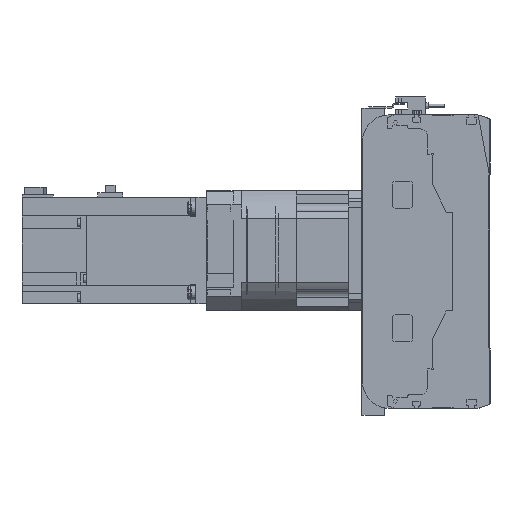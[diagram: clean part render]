
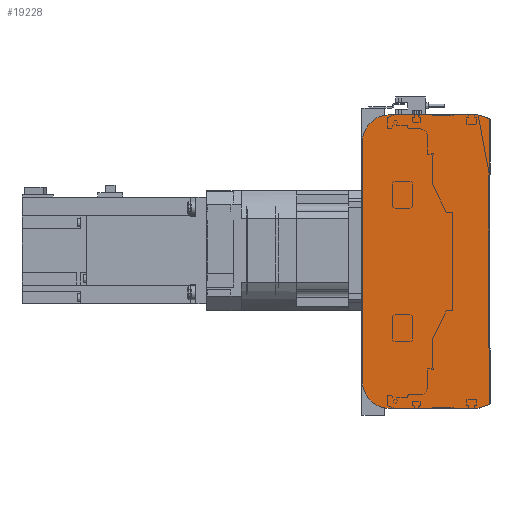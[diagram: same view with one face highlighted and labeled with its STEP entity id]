
A CAD part, left-side view. The second image highlights one B-rep face of the part: STEP entity #19228.
In plain terms, the highlighted planar face has unit normal (-1, 0, 0).
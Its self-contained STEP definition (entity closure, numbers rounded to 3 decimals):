
#1102=CIRCLE('',#20948,20.);
#1103=CIRCLE('',#20951,20.);
#4750=ORIENTED_EDGE('',*,*,#8328,.F.);
#4751=ORIENTED_EDGE('',*,*,#8370,.F.);
#4752=ORIENTED_EDGE('',*,*,#8368,.F.);
#4753=ORIENTED_EDGE('',*,*,#8366,.F.);
#4754=ORIENTED_EDGE('',*,*,#8355,.F.);
#4755=ORIENTED_EDGE('',*,*,#8346,.F.);
#4756=ORIENTED_EDGE('',*,*,#8342,.F.);
#4757=ORIENTED_EDGE('',*,*,#8339,.F.);
#8328=EDGE_CURVE('',#10461,#10462,#12187,.T.);
#8339=EDGE_CURVE('',#10462,#10469,#12198,.T.);
#8342=EDGE_CURVE('',#10469,#10471,#12201,.T.);
#8346=EDGE_CURVE('',#10471,#10472,#12205,.T.);
#8355=EDGE_CURVE('',#10472,#10478,#12214,.T.);
#8366=EDGE_CURVE('',#10478,#10485,#1102,.T.);
#8368=EDGE_CURVE('',#10485,#10486,#12226,.T.);
#8370=EDGE_CURVE('',#10486,#10461,#1103,.T.);
#10461=VERTEX_POINT('',#31854);
#10462=VERTEX_POINT('',#31856);
#10469=VERTEX_POINT('',#31875);
#10471=VERTEX_POINT('',#31881);
#10472=VERTEX_POINT('',#31887);
#10478=VERTEX_POINT('',#31903);
#10485=VERTEX_POINT('',#31922);
#10486=VERTEX_POINT('',#31926);
#12187=LINE('',#31855,#13776);
#12198=LINE('',#31874,#13787);
#12201=LINE('',#31880,#13790);
#12205=LINE('',#31886,#13794);
#12214=LINE('',#31902,#13803);
#12226=LINE('',#31925,#13815);
#13776=VECTOR('',#25347,1000.);
#13787=VECTOR('',#25360,1000.);
#13790=VECTOR('',#25365,1000.);
#13794=VECTOR('',#25371,1000.);
#13803=VECTOR('',#25382,1000.);
#13815=VECTOR('',#25400,1000.);
#15200=EDGE_LOOP('',(#4750,#4751,#4752,#4753,#4754,#4755,#4756,#4757));
#17038=FACE_BOUND('',#15200,.T.);
#18315=PLANE('',#20952);
#19228=ADVANCED_FACE('',(#17038),#18315,.F.);
#20948=AXIS2_PLACEMENT_3D('',#31921,#25395,#25396);
#20951=AXIS2_PLACEMENT_3D('',#31929,#25404,#25405);
#20952=AXIS2_PLACEMENT_3D('',#31930,#25406,#25407);
#25347=DIRECTION('',(0.,-1.,0.));
#25360=DIRECTION('',(0.,-0.945,-0.328));
#25365=DIRECTION('',(0.,0.,-1.));
#25371=DIRECTION('',(0.,0.945,-0.328));
#25382=DIRECTION('',(0.,1.,0.));
#25395=DIRECTION('',(1.,0.,0.));
#25396=DIRECTION('',(0.,0.,-1.));
#25400=DIRECTION('',(0.,0.,1.));
#25404=DIRECTION('',(1.,0.,0.));
#25405=DIRECTION('',(0.,0.,-1.));
#25406=DIRECTION('',(1.,0.,0.));
#25407=DIRECTION('',(0.,0.,-1.));
#31854=CARTESIAN_POINT('',(0.,75.5,110.));
#31855=CARTESIAN_POINT('',(0.,75.5,110.));
#31856=CARTESIAN_POINT('',(0.,9.,110.));
#31874=CARTESIAN_POINT('',(0.,9.,110.));
#31875=CARTESIAN_POINT('',(0.,0.5,107.05));
#31880=CARTESIAN_POINT('',(0.,0.5,107.05));
#31881=CARTESIAN_POINT('',(0.,0.5,-107.05));
#31886=CARTESIAN_POINT('',(0.,0.5,-107.05));
#31887=CARTESIAN_POINT('',(0.,9.,-110.));
#31902=CARTESIAN_POINT('',(0.,9.,-110.));
#31903=CARTESIAN_POINT('',(0.,75.5,-110.));
#31921=CARTESIAN_POINT('',(0.,75.5,-90.));
#31922=CARTESIAN_POINT('',(0.,95.5,-90.));
#31925=CARTESIAN_POINT('',(0.,95.5,-90.));
#31926=CARTESIAN_POINT('',(0.,95.5,90.));
#31929=CARTESIAN_POINT('',(0.,75.5,90.));
#31930=CARTESIAN_POINT('',(0.,75.5,-90.));
